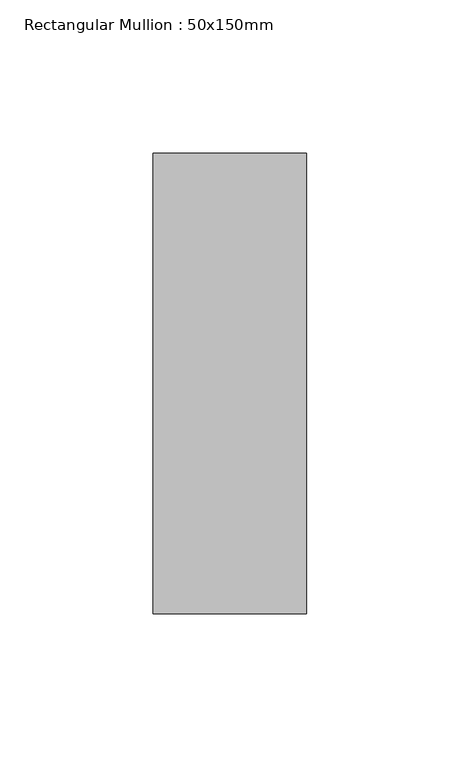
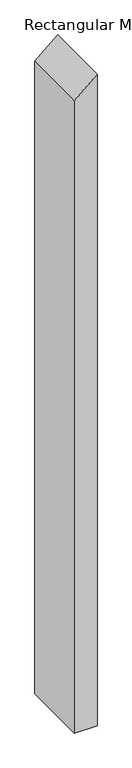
"""IFC4 building model written with IfcOpenShell, lengths in millimetres: member geometry, Rectangular Mullion : 50x150mm."""

from ifc_helpers import new_model, si_unit, frame, origin, place, context, project, spatial, polyline, outline, extrude, source, transform, mapped, element, save


def rectangular_mullion_50x150mm_2a69905f(model_context):
    return source(origin(), model_context, "Body", "SweptSolid", [
        extrude(outline(polyline([(0.0, 0.0), (-44.2362632, -50.0), (-1515.2205402, -50.0), (-1515.2205402, 0.0), (0.0, 0.0)])), frame((0.0, -75.0, 0.0), z_axis=(0.0, 1.0, 0.0), x_axis=(0.0, 0.0, 1.0)), (0.0, 0.0, 1.0), 150.0),
    ])


if __name__ == "__main__":
    model = new_model("IFC4")
    model_context = context("Model", 3, world=origin())
    ifc_project = project(units=[si_unit("LENGTHUNIT", "METRE", prefix="MILLI")], contexts=[model_context])
    site = spatial("IfcSite", under=ifc_project)
    building = spatial("IfcBuilding", under=site)
    placement = place(None, origin())
    rectangular_mullion_50x150mm_shape = rectangular_mullion_50x150mm_2a69905f(model_context)
    element("IfcMember", 1, ObjectType="Rectangular Mullion : 50x150mm", at=placement, inside=building, context=model_context, shape_type="MappedRepresentation", body=[
        mapped(rectangular_mullion_50x150mm_shape, transform((0.0, 0.0, 0.0), x_axis=(1.0, 0.0, 0.0), y_axis=(0.0, 1.0, 0.0), z_axis=(0.0, 0.0, 1.0))),
    ])
    save(model, "model.ifc")
